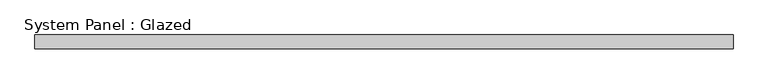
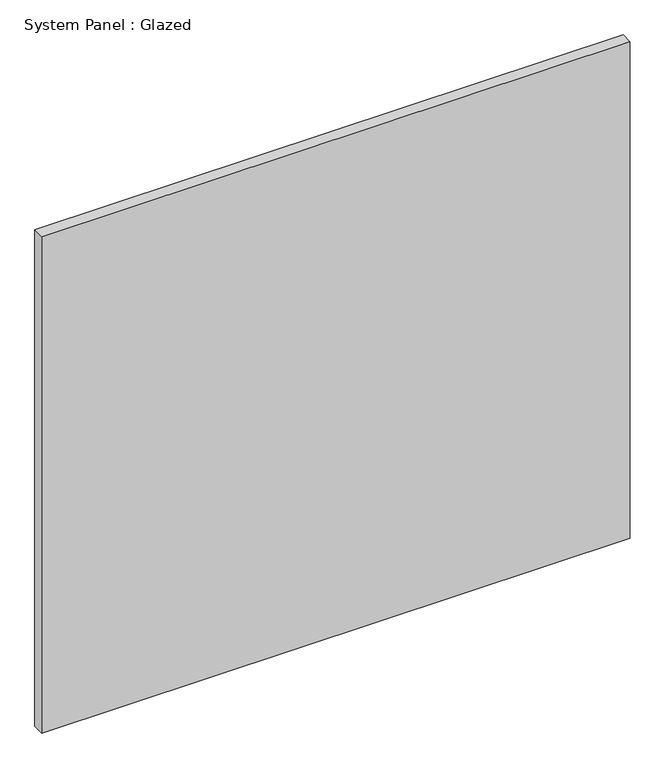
"""IFC4 building model written with IfcOpenShell, lengths in millimetres: plate geometry, System Panel : Glazed."""

from ifc_helpers import new_model, si_unit, origin, origin_with_axes, place, context, project, spatial, polyline, outline, extrude, source, transform, mapped, element, save


def system_panel_glazed_00c61910(model_context):
    return source(origin(), model_context, "Body", "SweptSolid", [
        extrude(outline(polyline([(630.8333334, -49.5), (-630.8333334, -49.5), (-630.8333334, -24.5), (630.8333334, -24.5), (630.8333334, -49.5)])), origin_with_axes(), (0.0, 0.0, 1.0), 1125.0),
    ])


if __name__ == "__main__":
    model = new_model("IFC4")
    model_context = context("Model", 3, world=origin())
    ifc_project = project(units=[si_unit("LENGTHUNIT", "METRE", prefix="MILLI")], contexts=[model_context])
    site = spatial("IfcSite", under=ifc_project)
    building = spatial("IfcBuilding", under=site)
    placement = place(None, origin())
    system_panel_glazed_shape = system_panel_glazed_00c61910(model_context)
    element("IfcPlate", 1, ObjectType="System Panel : Glazed", at=placement, inside=building, context=model_context, shape_type="MappedRepresentation", body=[
        mapped(system_panel_glazed_shape, transform((0.0, 0.0, 0.0), x_axis=(1.0, 0.0, 0.0), y_axis=(0.0, 1.0, 0.0), z_axis=(0.0, 0.0, 1.0))),
    ])
    save(model, "model.ifc")
